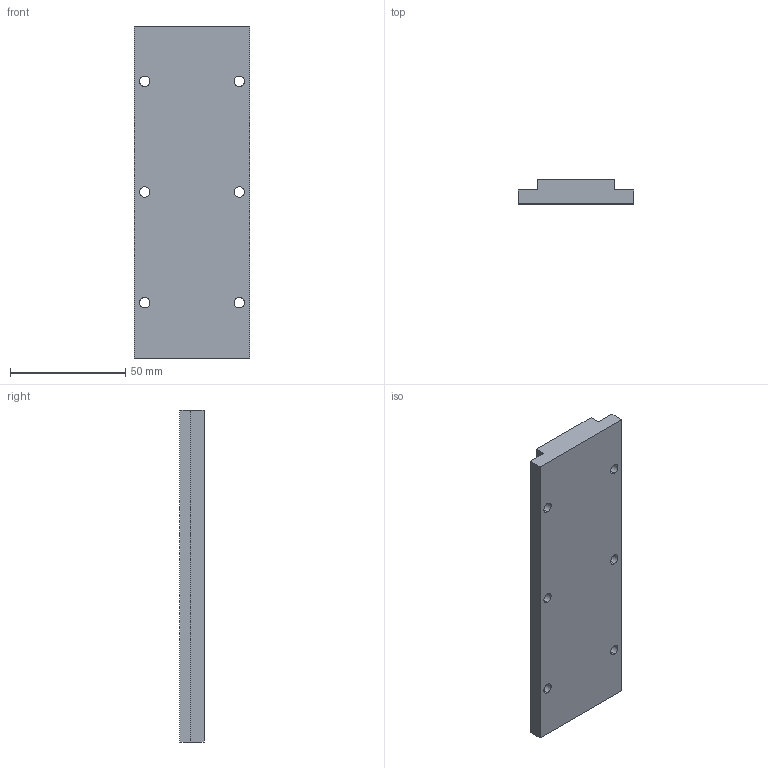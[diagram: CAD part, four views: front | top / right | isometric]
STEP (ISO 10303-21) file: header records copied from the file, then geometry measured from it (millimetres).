
FILE_DESCRIPTION (( 'STEP AP214' ), '1' );
FILE_NAME ('TLT-50-L144.STEP', '2022-04-13T09:10:14', ( 'Microsoft' ), ( 'Microsoft' ), 'SwSTEP 2.0', 'SolidWorks 2016', '' );
FILE_SCHEMA (( 'AUTOMOTIVE_DESIGN' ));
Length unit declared in the file: millimetre
Products named in the file (1): TLT-50-L144
Bounding box: 50 x 10.5 x 144 mm (x, y, z)
Volume: 64335.4 mm3; surface area: 18643.6 mm2
Topology: 1 solids, 1 shells, 22 faces, 60 edges, 40 vertices
Faces by surface type: cylinder 12, plane 10
Entity records: 766 total; most frequent: DIRECTION 130, CARTESIAN_POINT 123, ORIENTED_EDGE 120, EDGE_CURVE 60, AXIS2_PLACEMENT_3D 47, VERTEX_POINT 40, LINE 36, VECTOR 36
